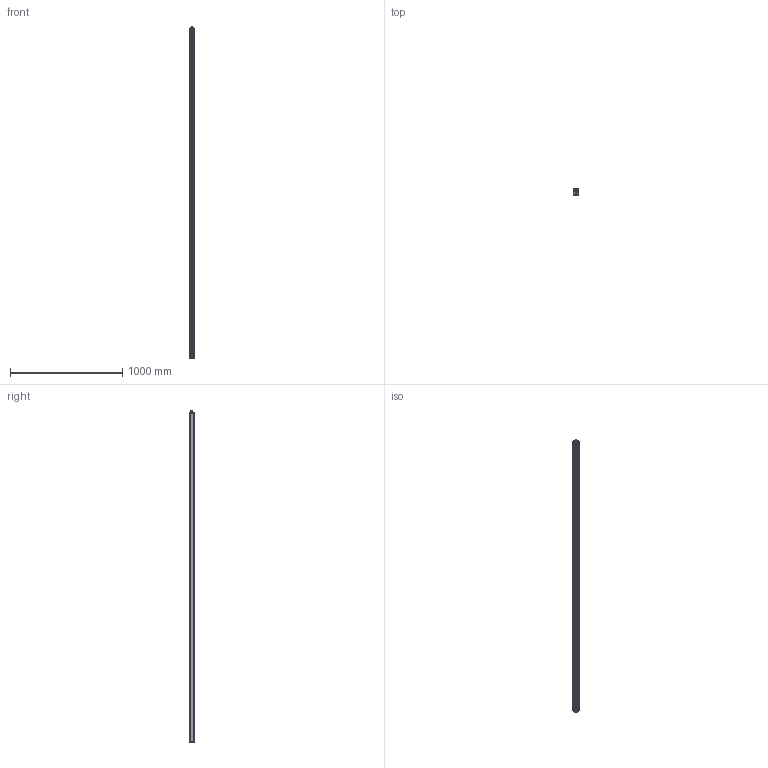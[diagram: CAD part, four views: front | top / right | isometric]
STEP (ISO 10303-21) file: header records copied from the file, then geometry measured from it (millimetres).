
FILE_DESCRIPTION (( 'STEP AP214' ), '1' );
FILE_NAME ('EFFI-FLEX2-LG-2900-ZZZ-WW-PP.STEP', '2021-05-28T09:35:06', ( '' ), ( '' ), 'SwSTEP 2.0', 'SolidWorks 2021', '' );
FILE_SCHEMA (( 'AUTOMOTIVE_DESIGN' ));
Length unit declared in the file: millimetre
Products named in the file (6): 017872; 000104; 018305; EFFI-FLEX2-LG-2900-ZZZ-WW-PP; 018302; 018003
Assembly tree (10 placements, depth 2):
  EFFI-FLEX2-LG-2900-ZZZ-WW-PP
    017872
    018302
    018305
    018003  x6
    000104
Bounding box: 51.01 x 49.11 x 2958 mm (x, y, z)
Volume: 6091347.6 mm3; surface area: 1135435.1 mm2
Topology: 10 solids, 10 shells, 1555 faces, 3970 edges, 2522 vertices
Faces by surface type: plane 798, cylinder 442, bspline 117, cone 96, torus 66, sphere 36
Entity records: 55996 total; most frequent: CARTESIAN_POINT 15057, ORIENTED_EDGE 6804, DIRECTION 6309, EDGE_CURVE 3402, VECTOR 2257, LINE 2257, VERTEX_POINT 2232, AXIS2_PLACEMENT_3D 2026
